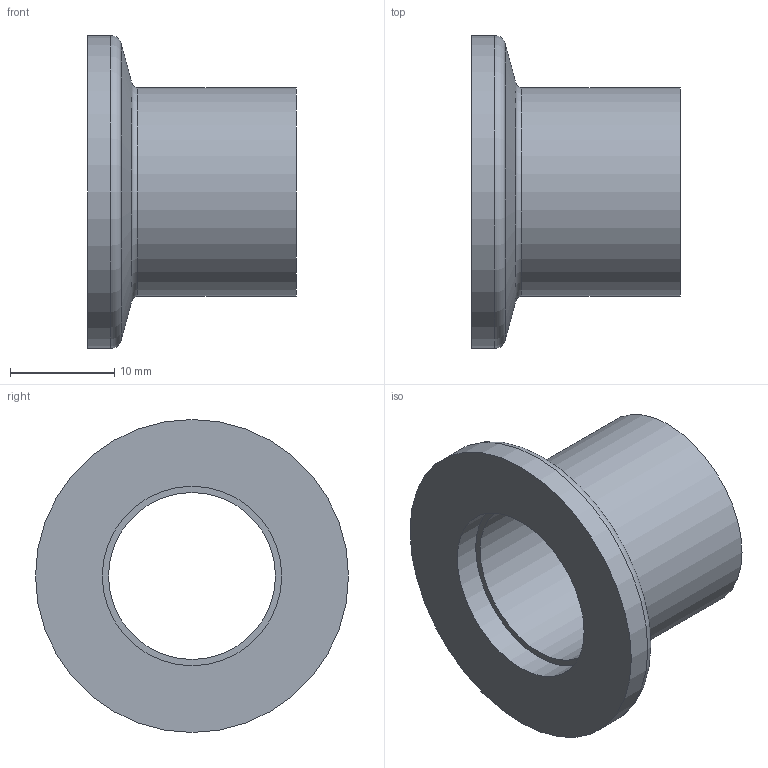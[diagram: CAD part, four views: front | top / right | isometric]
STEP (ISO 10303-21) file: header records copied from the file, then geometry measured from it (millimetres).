
FILE_DESCRIPTION(/* description */ (''),/* implementation_level */ '2;1');
FILE_NAME(/* name */ '86632.step',/* time_stamp */ '2015-09-01T16:00:49+08:00',/* author */ (''),/* organization */ (''),/* preprocessor_version */ 'ST-DEVELOPER v11',/* originating_system */ 'SIEMENS UGS NX 6.0',/* authorisation */ '');
FILE_SCHEMA (('AUTOMOTIVE_DESIGN { 1 0 10303 214 1 1 1 1 }'));
Length unit declared in the file: millimetre
Products named in the file (1): 86632
Bounding box: 20 x 30 x 30 mm (x, y, z)
Volume: 3599.4 mm3; surface area: 3276.9 mm2
Topology: 1 solids, 1 shells, 10 faces, 17 edges, 10 vertices
Faces by surface type: cylinder 4, plane 3, torus 2, cone 1
Full cylindrical faces by diameter (mm): 16 x1, 17.2 x1, 20 x1, 30 x1
Entity records: 232 total; most frequent: DIRECTION 42, CARTESIAN_POINT 31, AXIS2_PLACEMENT_3D 21, FACE_BOUND 20, EDGE_LOOP 20, ORIENTED_EDGE 20, ADVANCED_FACE 10, VERTEX_POINT 10
